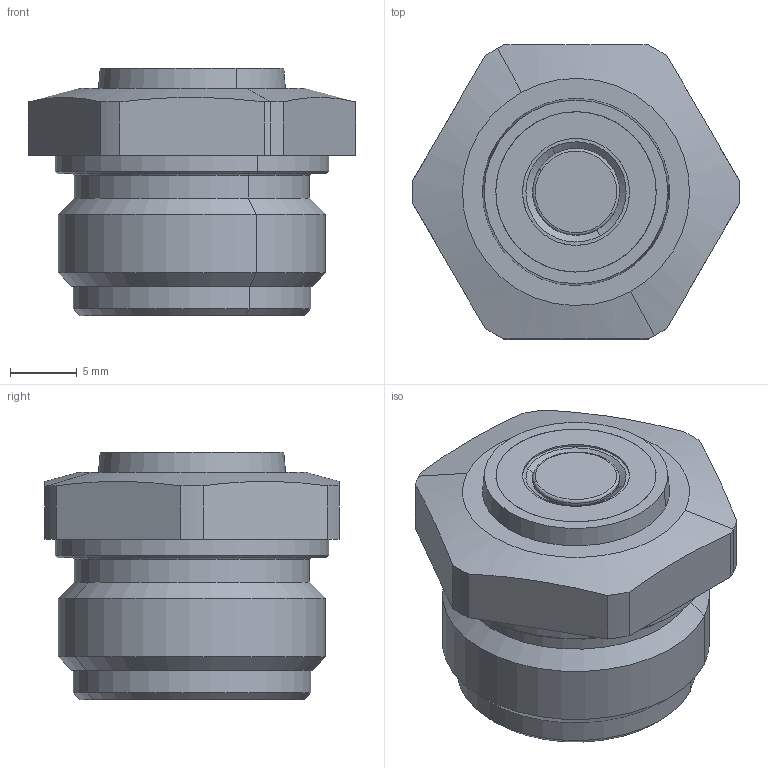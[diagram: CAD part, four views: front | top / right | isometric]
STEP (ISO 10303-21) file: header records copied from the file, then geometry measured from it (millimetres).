
FILE_DESCRIPTION(('CATIA V5 STEP Exchange'),'2;1');
FILE_NAME('\\kjf-102\KJF_TC\Hydraulic_Clamp\Standard\AUTO_COUPLER\ACx-2012_-\카달로그\사각링 type (20251118)\ACx-20122.stp','2025-11-18T07:29:07+00:00',('none'),('none'),'CATIA Version 5 Release 19 SP 9 (IN-10)','CATIA V5 STEP AP214','none');
FILE_SCHEMA(('AUTOMOTIVE_DESIGN { 1 0 10303 214 1 1 1 1 }'));
Length unit declared in the file: millimetre
Products named in the file (8): ACO-20122_E; ACO-20122_B_BODY; ACx-20122_E_SLEEVE; ACO-20122_C_ROD; SNAP RING 16; SNAP RING 3E; ACO-20122_A_COVER; SEAL
Assembly tree (7 placements, depth 2):
  ACO-20122_E
    ACO-20122_B_BODY
    ACx-20122_E_SLEEVE
    ACO-20122_C_ROD
    SNAP RING 16
    SNAP RING 3E
    ACO-20122_A_COVER
    SEAL
Bounding box: 24.49 x 22 x 18.5 mm (x, y, z)
Volume: 4399.1 mm3; surface area: 4739.9 mm2
Topology: 7 solids, 7 shells, 154 faces, 351 edges, 222 vertices
Faces by surface type: cylinder 82, plane 42, cone 22, torus 6, bspline 2
Entity records: 4297 total; most frequent: CARTESIAN_POINT 850, ORIENTED_EDGE 702, DIRECTION 565, EDGE_CURVE 351, AXIS2_PLACEMENT_3D 305, VERTEX_POINT 222, CIRCLE 189, EDGE_LOOP 179
